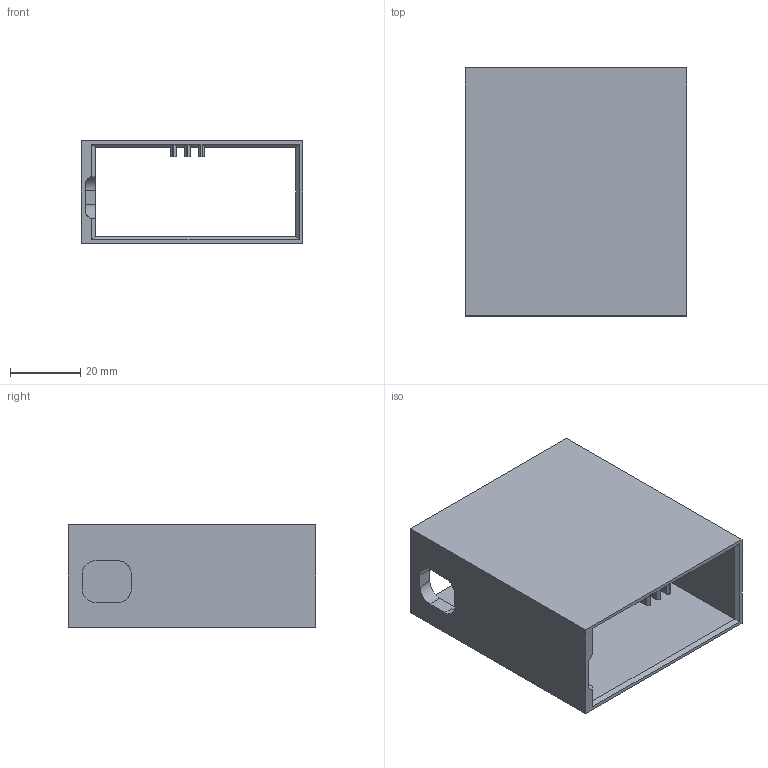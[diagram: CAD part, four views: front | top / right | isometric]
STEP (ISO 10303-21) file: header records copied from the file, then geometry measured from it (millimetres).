
FILE_DESCRIPTION(/* description */ (''),/* implementation_level */ '2;1');
FILE_NAME(/* name */ 'RPi Slot Small Ports v4.step',/* time_stamp */ '2024-02-11T13:11:38+01:00',/* author */ (''),/* organization */ (''),/* preprocessor_version */ 'ST-DEVELOPER v20',/* originating_system */ 'Autodesk Translation Framework v12.14.0.127',/* authorisation */ '');
FILE_SCHEMA (('AUTOMOTIVE_DESIGN { 1 0 10303 214 3 1 1 }'));
Length unit declared in the file: millimetre
Products named in the file (1): RPi Slot Small Ports
Bounding box: 63 x 70.5 x 29.2 mm (x, y, z)
Volume: 26179.2 mm3; surface area: 25511.7 mm2
Topology: 1 solids, 1 shells, 54 faces, 151 edges, 98 vertices
Faces by surface type: plane 50, cylinder 4
Entity records: 1742 total; most frequent: CARTESIAN_POINT 304, ORIENTED_EDGE 302, DIRECTION 271, EDGE_CURVE 151, LINE 141, VECTOR 141, VERTEX_POINT 98, AXIS2_PLACEMENT_3D 65
